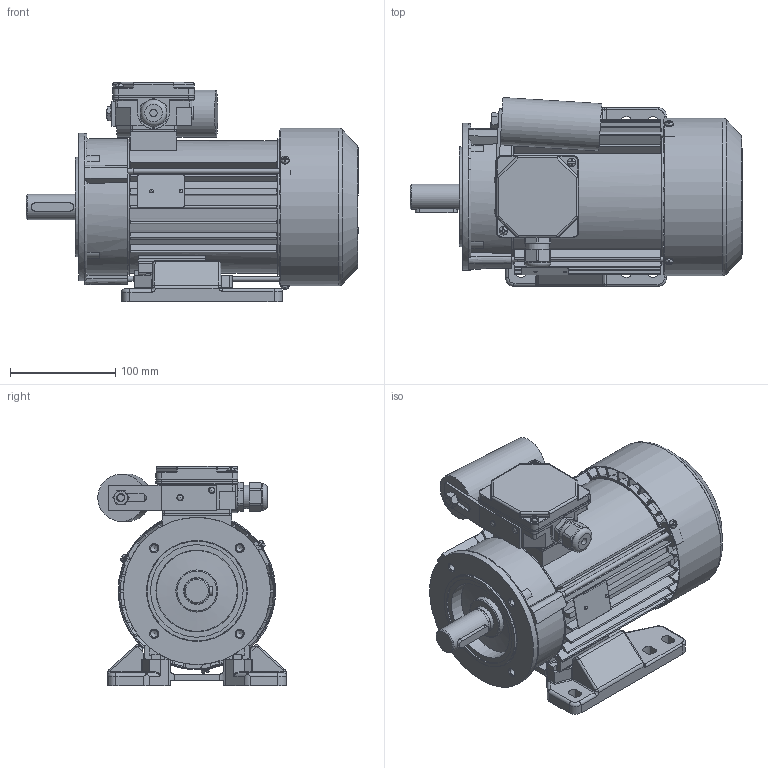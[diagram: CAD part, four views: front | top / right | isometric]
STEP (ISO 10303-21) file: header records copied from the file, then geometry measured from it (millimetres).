
FILE_DESCRIPTION( ( 'Unknown' ), '1' );
FILE_NAME( 'G:/Poczta Tk-1/STP/w.m.90/SEh90/SELh90-.S2.stp', 'Unknown', ( 'K. Szlosek' ), ( 'BESEL S.A.' ), 'PSStep 17.0.49', 'Unknown', ' ' );
FILE_SCHEMA( ( 'AUTOMOTIVE_DESIGN { 1 0 10303 214 1 1 1 1 }' ) );
Length unit declared in the file: millimetre
Products named in the file (47): skrznka zaciskowa jednofazowa ; K4-2820 Uszczelka nr 2 Sh71,80; K2-1131 Podstawa skrzynki zaciskowej jednofazowa; K4-2999 Uchwyt kondensatora; Nit 4x12 po skróceniu; nakrętka M8; K4-0898 Tulejka uszczelniająca; Dławnica M20x1,5; K2-0860 Pokrywka skrzynki zaciskowej; Assem1; K1-1257 Kadłub S(E,M)h80-C i D; K2-1715 Przewietrznik; Wpust A8x7x40; K3-7808 Wał Sh90-.S; Wkręt samogwintujący M4x12; Tabliczka znamionowa 32x44; Kondensator zb 25-31,5uF Comar; K4-4489 Osłona przewietrznika Sh80,90-A,C; K4-2320 Uszczelka nr 1 Sh71,80; K2-2027 Tarcza łożyskowa P S(E,M)h80-.A,C; Wkręt samogwintujący M4x8; Łożysko 6205; Łożysko 6204; Śruba ściągająca E_M5x168; Nitokołek A 2x6; K3-7773 Tarcza kołnierzowa B14_2 SKh90-..2; K1-1130 Łapa wymiar 90
Assembly tree (53 placements, depth 3):
  Assem1
    K1-1257 Kadłub S(E,M)h80-C i D
    K2-1715 Przewietrznik
    Wpust A8x7x40
    K3-7808 Wał Sh90-.S
    Wkręt samogwintujący M4x12  x2
    Tabliczka znamionowa 32x44
    Kondensator zb 25-31,5uF Comar
    K4-4489 Osłona przewietrznika Sh80,90-A,C
    K4-2320 Uszczelka nr 1 Sh71,80
    K2-2027 Tarcza łożyskowa P S(E,M)h80-.A,C
    Wkręt samogwintujący M4x8  x3
    Łożysko 6205
    Łożysko 6205
    Łożysko 6205
    Łożysko 6205
    Łożysko 6205
    Łożysko 6205
    Łożysko 6205
    Łożysko 6205
    Łożysko 6205
    Łożysko 6205
    Łożysko 6205
    Łożysko 6205
    Łożysko 6204
    Łożysko 6204
    Łożysko 6204
    Łożysko 6204
    Łożysko 6204
    Łożysko 6204
    Łożysko 6204
    Łożysko 6204
    Łożysko 6204
    Łożysko 6204
    Śruba ściągająca E_M5x168  x3
    Nitokołek A 2x6  x2
    K3-7773 Tarcza kołnierzowa B14_2 SKh90-..2
    K1-1130 Łapa wymiar 90
    skrznka zaciskowa jednofazowa 
      K4-2820 Uszczelka nr 2 Sh71,80
      K2-1131 Podstawa skrzynki zaciskowej jednofazowa
      K4-2999 Uchwyt kondensatora
      Nit 4x12 po skróceniu  x2
      nakrętka M8
      K4-0898 Tulejka uszczelniająca
      Dławnica M20x1,5
      K2-0860 Pokrywka skrzynki zaciskowej
Bounding box: 315.8 x 179.3 x 208.5 mm (x, y, z)
Volume: 1255051.8 mm3; surface area: 696386.7 mm2
Topology: 52 solids, 70 shells, 3338 faces, 9164 edges, 5893 vertices
Faces by surface type: plane 1583, cylinder 1091, bspline 247, cone 197, torus 168, sphere 52
Full cylindrical faces by diameter (mm): 2 x2, 2.4 x2, 3 x2, 3.7 x11, 4 x7, 4.2 x3, 4.3 x2, 4.5 x3, 4.6 x3, 4.8 x4, 5 x7, 5.5 x3, 6 x2, 6.5 x5, 6.647 x1, 6.8 x4, 7 x1, 8 x10, 10 x2, 18.376 x1, 18.38 x1, 19.3 x1, 19.5 x2, 19.6 x1, 19.9 x1, 20 x3, 20.4 x1, 22.3 x1, 23.6 x1, 24 x1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
Entity records: 167594 total; most frequent: CARTESIAN_POINT 63778, ORIENTED_EDGE 16694, DIRECTION 16022, EDGE_CURVE 8347, AXIS2_PLACEMENT_3D 5895, VERTEX_POINT 5604, LINE 4232, VECTOR 4232
